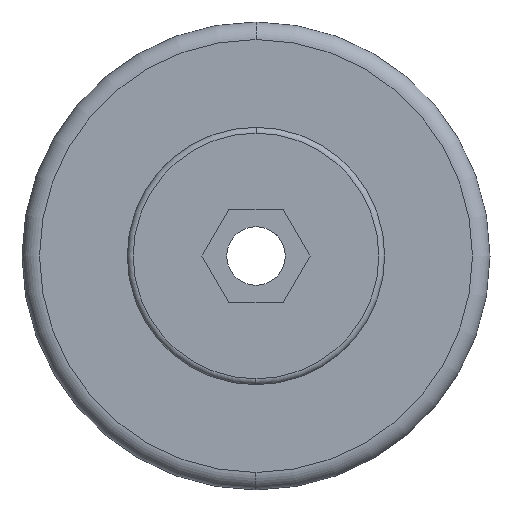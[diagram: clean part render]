
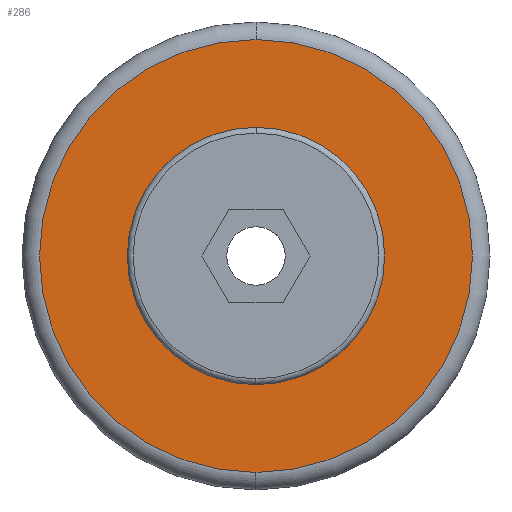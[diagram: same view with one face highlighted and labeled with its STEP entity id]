
A CAD part, left-side view. The second image highlights one B-rep face of the part: STEP entity #286.
In plain terms, the highlighted planar face has unit normal (-1, 0, 0).
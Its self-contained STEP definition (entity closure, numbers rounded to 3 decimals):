
#27 = DIRECTION ( 'NONE',  ( -1., 0., 0. ) ) ;
#71 = CARTESIAN_POINT ( 'NONE',  ( -27.064, 2.939, 0. ) ) ;
#86 = EDGE_LOOP ( 'NONE', ( #1634, #310 ) ) ;
#204 = DIRECTION ( 'NONE',  ( 0., 0., 1. ) ) ;
#252 = DIRECTION ( 'NONE',  ( -1., 0., 0. ) ) ;
#273 = VERTEX_POINT ( 'NONE', #1388 ) ;
#286 = ADVANCED_FACE ( 'NONE', ( #897, #602 ), #1657, .T. ) ;
#310 = ORIENTED_EDGE ( 'NONE', *, *, #847, .T. ) ;
#382 = CARTESIAN_POINT ( 'NONE',  ( -27.064, 2.939, -18.5 ) ) ;
#386 = DIRECTION ( 'NONE',  ( -1., 0., 0. ) ) ;
#388 = CARTESIAN_POINT ( 'NONE',  ( -27.064, 2.939, 0. ) ) ;
#394 = CIRCLE ( 'NONE', #689, 18.5 ) ;
#515 = DIRECTION ( 'NONE',  ( 0., 0., 1. ) ) ;
#602 = FACE_BOUND ( 'NONE', #1231, .T. ) ;
#689 = AXIS2_PLACEMENT_3D ( 'NONE', #1144, #386, #1269 ) ;
#726 = AXIS2_PLACEMENT_3D ( 'NONE', #1126, #252, #997 ) ;
#782 = CARTESIAN_POINT ( 'NONE',  ( -27.064, 2.939, 0. ) ) ;
#847 = EDGE_CURVE ( 'NONE', #865, #273, #394, .T. ) ;
#865 = VERTEX_POINT ( 'NONE', #382 ) ;
#897 = FACE_OUTER_BOUND ( 'NONE', #86, .T. ) ;
#912 = VERTEX_POINT ( 'NONE', #1277 ) ;
#913 = DIRECTION ( 'NONE',  ( 0., 0., 1. ) ) ;
#918 = EDGE_CURVE ( 'NONE', #1028, #912, #1287, .T. ) ;
#951 = DIRECTION ( 'NONE',  ( -1., 0., 0. ) ) ;
#997 = DIRECTION ( 'NONE',  ( 0., 0., 1. ) ) ;
#1023 = AXIS2_PLACEMENT_3D ( 'NONE', #782, #27, #913 ) ;
#1028 = VERTEX_POINT ( 'NONE', #1062 ) ;
#1033 = CIRCLE ( 'NONE', #1500, 18.5 ) ;
#1062 = CARTESIAN_POINT ( 'NONE',  ( -27.064, 2.939, -11. ) ) ;
#1124 = ORIENTED_EDGE ( 'NONE', *, *, #1215, .F. ) ;
#1126 = CARTESIAN_POINT ( 'NONE',  ( -27.064, 22.939, 0. ) ) ;
#1144 = CARTESIAN_POINT ( 'NONE',  ( -27.064, 2.939, 0. ) ) ;
#1215 = EDGE_CURVE ( 'NONE', #912, #1028, #1222, .T. ) ;
#1222 = CIRCLE ( 'NONE', #1618, 11. ) ;
#1231 = EDGE_LOOP ( 'NONE', ( #1647, #1124 ) ) ;
#1269 = DIRECTION ( 'NONE',  ( 0., 0., 1. ) ) ;
#1272 = DIRECTION ( 'NONE',  ( -1., 0., 0. ) ) ;
#1277 = CARTESIAN_POINT ( 'NONE',  ( -27.064, 2.939, 11. ) ) ;
#1287 = CIRCLE ( 'NONE', #1023, 11. ) ;
#1388 = CARTESIAN_POINT ( 'NONE',  ( -27.064, 2.939, 18.5 ) ) ;
#1487 = EDGE_CURVE ( 'NONE', #273, #865, #1033, .T. ) ;
#1500 = AXIS2_PLACEMENT_3D ( 'NONE', #388, #1272, #515 ) ;
#1618 = AXIS2_PLACEMENT_3D ( 'NONE', #71, #951, #204 ) ;
#1634 = ORIENTED_EDGE ( 'NONE', *, *, #1487, .T. ) ;
#1647 = ORIENTED_EDGE ( 'NONE', *, *, #918, .F. ) ;
#1657 = PLANE ( 'NONE',  #726 ) ;
